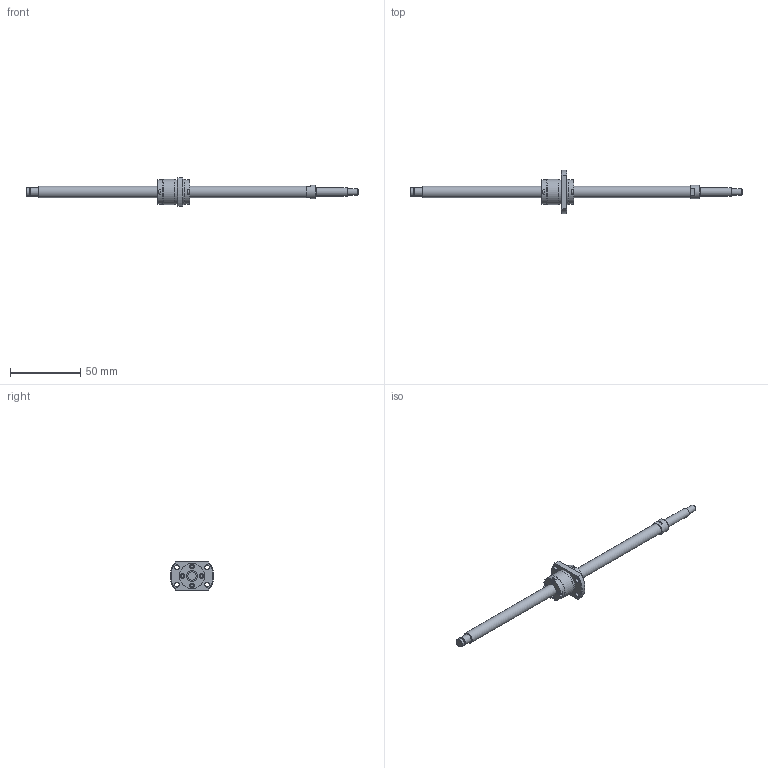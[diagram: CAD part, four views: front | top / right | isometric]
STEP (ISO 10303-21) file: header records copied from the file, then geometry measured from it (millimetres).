
FILE_DESCRIPTION(/* description */ ('STEP AP214'),/* implementation_level */ '2;1');
FILE_NAME(/* name */ 'SRT0820-187R237C7B0X(85Processing)',/* time_stamp */ '2026-08-04T20:07:06+02:00',/* author */ ('License CC BY-ND 4.0'),/* organization */ ('CADENAS'),/* preprocessor_version */ 'ST-DEVELOPER v20',/* originating_system */ 'PARTsolutions',/* authorisation */ ' ');
FILE_SCHEMA (('AUTOMOTIVE_DESIGN {1 0 10303 214 3 1 1}'));
Length unit declared in the file: millimetre
Products named in the file (3): SRT0820-187R237C7B0X(85Processing); SRT0820-187R270BCt7Processing53Shaft; SRT0820Nut
Assembly tree (2 placements, depth 2):
  SRT0820-187R237C7B0X(85Processing)
    SRT0820-187R270BCt7Processing53Shaft
    SRT0820Nut
Bounding box: 237 x 30.91 x 20 mm (x, y, z)
Volume: 16672.2 mm3; surface area: 9206.4 mm2
Topology: 2 solids, 2 shells, 155 faces, 366 edges, 241 vertices
Faces by surface type: plane 110, cylinder 35, cone 9, torus 1
Full cylindrical faces by diameter (mm): 3 x8, 3.4 x4, 4.5 x1, 5.7 x1, 6 x3, 8 x2, 9.5 x1, 17.5 x2, 17.7 x1, 18 x2
Entity records: 4367 total; most frequent: CARTESIAN_POINT 752, DIRECTION 738, ORIENTED_EDGE 664, EDGE_CURVE 332, AXIS2_PLACEMENT_3D 256, VERTEX_POINT 238, LINE 226, VECTOR 226
